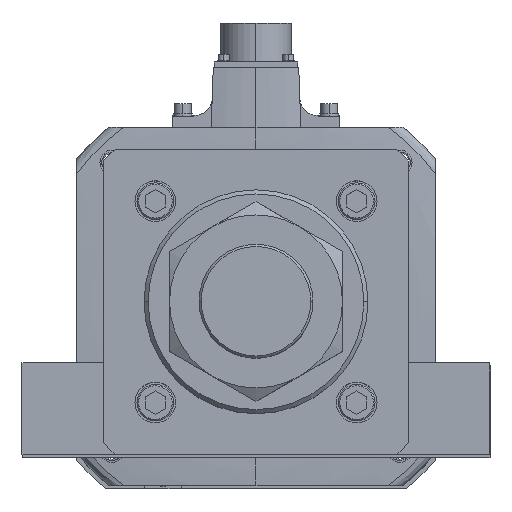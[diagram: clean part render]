
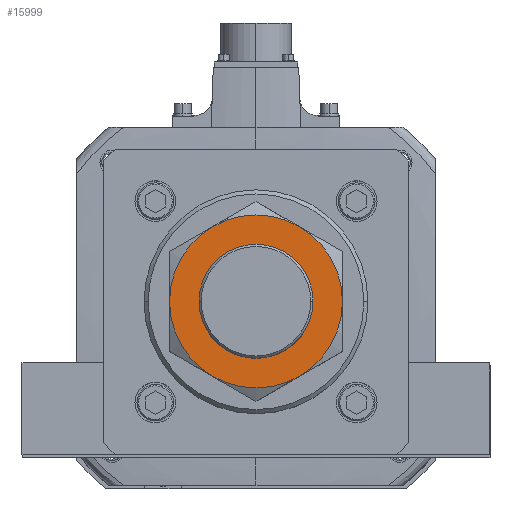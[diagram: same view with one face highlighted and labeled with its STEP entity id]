
A CAD part, top view. The second image highlights one B-rep face of the part: STEP entity #15999.
In plain terms, the highlighted planar face has unit normal (0, 0, 1).
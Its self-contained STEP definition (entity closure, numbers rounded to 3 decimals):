
#43 = CARTESIAN_POINT ( 'NONE',  ( 0., 0., 34. ) ) ;
#277 = ORIENTED_EDGE ( 'NONE', *, *, #24047, .F. ) ;
#876 = CARTESIAN_POINT ( 'NONE',  ( -21.25, -36.806, 34. ) ) ;
#1237 = CARTESIAN_POINT ( 'NONE',  ( 0., 0., 34. ) ) ;
#1622 = CIRCLE ( 'NONE', #40821, 42.5 ) ;
#1977 = CIRCLE ( 'NONE', #53374, 42.5 ) ;
#2593 = EDGE_CURVE ( 'NONE', #28758, #29129, #1977, .T. ) ;
#2905 = CARTESIAN_POINT ( 'NONE',  ( 28., 0., 34. ) ) ;
#5113 = VERTEX_POINT ( 'NONE', #50465 ) ;
#5233 = AXIS2_PLACEMENT_3D ( 'NONE', #44610, #10690, #45161 ) ;
#6287 = CIRCLE ( 'NONE', #18245, 28. ) ;
#6509 = VERTEX_POINT ( 'NONE', #6539 ) ;
#6539 = CARTESIAN_POINT ( 'NONE',  ( -28., 0., 34. ) ) ;
#7222 = AXIS2_PLACEMENT_3D ( 'NONE', #14648, #10703, #10515 ) ;
#7883 = CIRCLE ( 'NONE', #5233, 42.5 ) ;
#8452 = EDGE_CURVE ( 'NONE', #29129, #39542, #50862, .T. ) ;
#10424 = ORIENTED_EDGE ( 'NONE', *, *, #45957, .F. ) ;
#10515 = DIRECTION ( 'NONE',  ( 1., 0., 0. ) ) ;
#10524 = EDGE_CURVE ( 'NONE', #54233, #6509, #22419, .T. ) ;
#10690 = DIRECTION ( 'NONE',  ( 0., 0., -1. ) ) ;
#10703 = DIRECTION ( 'NONE',  ( 0., 0., 1. ) ) ;
#13955 = ORIENTED_EDGE ( 'NONE', *, *, #52318, .F. ) ;
#14648 = CARTESIAN_POINT ( 'NONE',  ( 0., 0., 34. ) ) ;
#15480 = CARTESIAN_POINT ( 'NONE',  ( 0., 0., 34. ) ) ;
#15999 = ADVANCED_FACE ( 'NONE', ( #27900, #16531 ), #36187, .T. ) ;
#16013 = CARTESIAN_POINT ( 'NONE',  ( 0., 0., 34. ) ) ;
#16531 = FACE_BOUND ( 'NONE', #52679, .T. ) ;
#16591 = AXIS2_PLACEMENT_3D ( 'NONE', #15480, #36478, #28209 ) ;
#17522 = DIRECTION ( 'NONE',  ( 0., 0., 1. ) ) ;
#18176 = AXIS2_PLACEMENT_3D ( 'NONE', #43, #17522, #38877 ) ;
#18245 = AXIS2_PLACEMENT_3D ( 'NONE', #1237, #25838, #52639 ) ;
#20302 = EDGE_CURVE ( 'NONE', #5113, #40127, #26756, .T. ) ;
#20645 = CARTESIAN_POINT ( 'NONE',  ( 0., 0., 34. ) ) ;
#22419 = CIRCLE ( 'NONE', #18176, 28. ) ;
#24047 = EDGE_CURVE ( 'NONE', #40127, #28758, #1622, .T. ) ;
#25180 = DIRECTION ( 'NONE',  ( 0., 0., -1. ) ) ;
#25588 = DIRECTION ( 'NONE',  ( 0., 0., -1. ) ) ;
#25838 = DIRECTION ( 'NONE',  ( 0., 0., 1. ) ) ;
#26756 = CIRCLE ( 'NONE', #50023, 42.5 ) ;
#27900 = FACE_OUTER_BOUND ( 'NONE', #33773, .T. ) ;
#28209 = DIRECTION ( 'NONE',  ( -1., 0., 0. ) ) ;
#28758 = VERTEX_POINT ( 'NONE', #876 ) ;
#29129 = VERTEX_POINT ( 'NONE', #43409 ) ;
#30611 = DIRECTION ( 'NONE',  ( 1., 0., 0. ) ) ;
#31278 = ORIENTED_EDGE ( 'NONE', *, *, #2593, .F. ) ;
#32828 = CARTESIAN_POINT ( 'NONE',  ( 21.25, -36.806, 34. ) ) ;
#33062 = EDGE_CURVE ( 'NONE', #47566, #5113, #7883, .T. ) ;
#33262 = DIRECTION ( 'NONE',  ( 1., 0., 0. ) ) ;
#33366 = DIRECTION ( 'NONE',  ( 1., 0., 0. ) ) ;
#33773 = EDGE_LOOP ( 'NONE', ( #53993, #44839, #10424, #36255, #31278, #277 ) ) ;
#33850 = CARTESIAN_POINT ( 'NONE',  ( 0., 0., 34. ) ) ;
#36187 = PLANE ( 'NONE',  #7222 ) ;
#36254 = CARTESIAN_POINT ( 'NONE',  ( 21.25, 36.806, 34. ) ) ;
#36255 = ORIENTED_EDGE ( 'NONE', *, *, #8452, .F. ) ;
#36478 = DIRECTION ( 'NONE',  ( 0., 0., -1. ) ) ;
#37740 = ORIENTED_EDGE ( 'NONE', *, *, #10524, .F. ) ;
#38877 = DIRECTION ( 'NONE',  ( 1., 0., 0. ) ) ;
#39542 = VERTEX_POINT ( 'NONE', #49978 ) ;
#39606 = CIRCLE ( 'NONE', #49948, 42.5 ) ;
#40127 = VERTEX_POINT ( 'NONE', #32828 ) ;
#40821 = AXIS2_PLACEMENT_3D ( 'NONE', #20645, #45737, #33366 ) ;
#43409 = CARTESIAN_POINT ( 'NONE',  ( -42.5, 0., 34. ) ) ;
#44610 = CARTESIAN_POINT ( 'NONE',  ( 0., 0., 34. ) ) ;
#44839 = ORIENTED_EDGE ( 'NONE', *, *, #33062, .F. ) ;
#45161 = DIRECTION ( 'NONE',  ( 1., 0., 0. ) ) ;
#45737 = DIRECTION ( 'NONE',  ( 0., 0., -1. ) ) ;
#45957 = EDGE_CURVE ( 'NONE', #39542, #47566, #39606, .T. ) ;
#47157 = DIRECTION ( 'NONE',  ( 1., 0., 0. ) ) ;
#47502 = CARTESIAN_POINT ( 'NONE',  ( 0., 0., 34. ) ) ;
#47566 = VERTEX_POINT ( 'NONE', #36254 ) ;
#49948 = AXIS2_PLACEMENT_3D ( 'NONE', #33850, #25588, #47157 ) ;
#49978 = CARTESIAN_POINT ( 'NONE',  ( -21.25, 36.806, 34. ) ) ;
#50023 = AXIS2_PLACEMENT_3D ( 'NONE', #47502, #51811, #30611 ) ;
#50465 = CARTESIAN_POINT ( 'NONE',  ( 42.5, 0., 34. ) ) ;
#50862 = CIRCLE ( 'NONE', #16591, 42.5 ) ;
#51811 = DIRECTION ( 'NONE',  ( 0., 0., -1. ) ) ;
#52318 = EDGE_CURVE ( 'NONE', #6509, #54233, #6287, .T. ) ;
#52639 = DIRECTION ( 'NONE',  ( 1., 0., 0. ) ) ;
#52679 = EDGE_LOOP ( 'NONE', ( #13955, #37740 ) ) ;
#53374 = AXIS2_PLACEMENT_3D ( 'NONE', #16013, #25180, #33262 ) ;
#53993 = ORIENTED_EDGE ( 'NONE', *, *, #20302, .F. ) ;
#54233 = VERTEX_POINT ( 'NONE', #2905 ) ;
